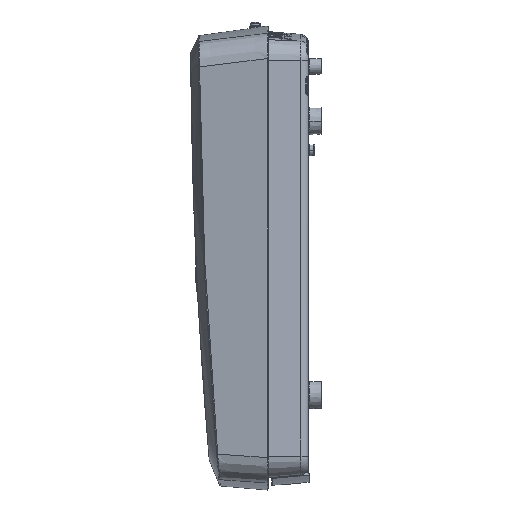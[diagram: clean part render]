
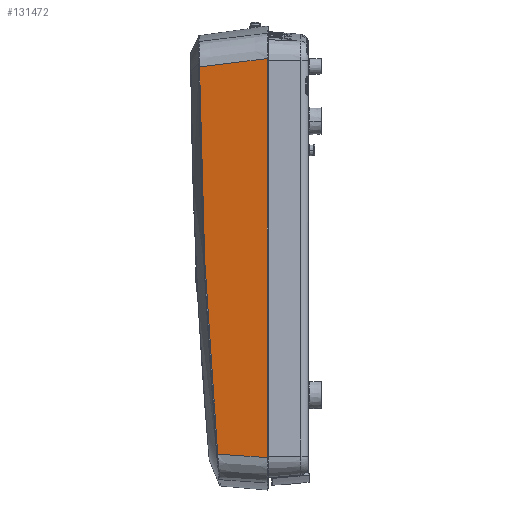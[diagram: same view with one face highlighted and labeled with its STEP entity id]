
A CAD part, left-side view. The second image highlights one B-rep face of the part: STEP entity #131472.
In plain terms, the highlighted planar face has unit normal (-0.99, 0.139, 0).
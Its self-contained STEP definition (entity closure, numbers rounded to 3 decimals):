
#6279 = CARTESIAN_POINT ( 'NONE',  ( -74.027, 42.497, 112.358 ) ) ;
#10719 = ORIENTED_EDGE ( 'NONE', *, *, #19496, .F. ) ;
#17492 = AXIS2_PLACEMENT_3D ( 'NONE', #36315, #51913, #37176 ) ;
#18395 = CARTESIAN_POINT ( 'NONE',  ( -74.094, 42.021, 78.521 ) ) ;
#19254 = CARTESIAN_POINT ( 'NONE',  ( -74.239, 40.993, 38.43 ) ) ;
#19496 = EDGE_CURVE ( 'NONE', #24100, #100817, #30670, .T. ) ;
#20099 = CARTESIAN_POINT ( 'NONE',  ( -74.036, 42.436, 106.091 ) ) ;
#20953 = CARTESIAN_POINT ( 'NONE',  ( -74.343, 40.254, 18.389 ) ) ;
#22464 = PLANE ( 'NONE',  #17492 ) ;
#24100 = VERTEX_POINT ( 'NONE', #148981 ) ;
#24187 = CARTESIAN_POINT ( 'NONE',  ( -75.605, 31.27, -121.674 ) ) ;
#30469 = CARTESIAN_POINT ( 'NONE',  ( -77.953, 14.563, 122.095 ) ) ;
#30670 = B_SPLINE_CURVE_WITH_KNOTS ( 'NONE', 3,
 ( #110235, #100638, #30469, #111960 ),
 .UNSPECIFIED., .F., .F.,
 ( 4, 4 ),
 ( 0., 1. ),
 .UNSPECIFIED. ) ;
#30700 = ORIENTED_EDGE ( 'NONE', *, *, #156541, .F. ) ;
#31376 = CARTESIAN_POINT ( 'NONE',  ( -75.529, 31.81, -115.431 ) ) ;
#32233 = CARTESIAN_POINT ( 'NONE',  ( -75.601, 31.299, -121.362 ) ) ;
#32604 = CARTESIAN_POINT ( 'NONE',  ( -75.605, 31.27, -121.674 ) ) ;
#34781 = CARTESIAN_POINT ( 'NONE',  ( -74.021, 42.546, 118.467 ) ) ;
#36315 = CARTESIAN_POINT ( 'NONE',  ( -80., 0., 144. ) ) ;
#37176 = DIRECTION ( 'NONE',  ( 0.139, 0.99, 0. ) ) ;
#45255 = CARTESIAN_POINT ( 'NONE',  ( -74.023, 42.529, 116.118 ) ) ;
#46669 = VERTEX_POINT ( 'NONE', #32604 ) ;
#47801 = CARTESIAN_POINT ( 'NONE',  ( -74.125, 41.801, 68.497 ) ) ;
#50197 = FACE_OUTER_BOUND ( 'NONE', #115794, .T. ) ;
#51913 = DIRECTION ( 'NONE',  ( 0.99, -0.139, 0. ) ) ;
#52920 = CARTESIAN_POINT ( 'NONE',  ( -79.92, 0.57, 144. ) ) ;
#58259 = CARTESIAN_POINT ( 'NONE',  ( -74.021, 42.541, 117.841 ) ) ;
#59116 = CARTESIAN_POINT ( 'NONE',  ( -75.05, 35.223, -71.702 ) ) ;
#59958 = CARTESIAN_POINT ( 'NONE',  ( -74.021, 42.542, 117.997 ) ) ;
#60812 = CARTESIAN_POINT ( 'NONE',  ( -75.485, 32.127, -111.685 ) ) ;
#61655 = CARTESIAN_POINT ( 'NONE',  ( -75.575, 31.489, -119.177 ) ) ;
#64216 = DIRECTION ( 'NONE',  ( 0., 0., -1. ) ) ;
#71260 = CARTESIAN_POINT ( 'NONE',  ( -74.022, 42.536, 117.058 ) ) ;
#72985 = CARTESIAN_POINT ( 'NONE',  ( -75.369, 32.95, -101.693 ) ) ;
#73828 = CARTESIAN_POINT ( 'NONE',  ( -74.032, 42.462, 108.598 ) ) ;
#74996 = ORIENTED_EDGE ( 'NONE', *, *, #116772, .F. ) ;
#78424 = CARTESIAN_POINT ( 'NONE',  ( -79.92, 0.57, 123.816 ) ) ;
#84268 = CARTESIAN_POINT ( 'NONE',  ( -74.607, 38.374, -21.671 ) ) ;
#85972 = CARTESIAN_POINT ( 'NONE',  ( -75.597, 31.326, -121.05 ) ) ;
#86818 = CARTESIAN_POINT ( 'NONE',  ( -74.022, 42.538, 117.371 ) ) ;
#87664 = CARTESIAN_POINT ( 'NONE',  ( -75.456, 32.335, -109.187 ) ) ;
#93715 = EDGE_CURVE ( 'NONE', #46669, #24100, #132274, .T. ) ;
#93889 = ORIENTED_EDGE ( 'NONE', *, *, #93715, .F. ) ;
#97283 = CARTESIAN_POINT ( 'NONE',  ( -75.586, 31.407, -120.114 ) ) ;
#99838 = CARTESIAN_POINT ( 'NONE',  ( -74.026, 42.508, 113.611 ) ) ;
#100638 = CARTESIAN_POINT ( 'NONE',  ( -75.987, 28.555, 120.364 ) ) ;
#100681 = CARTESIAN_POINT ( 'NONE',  ( -74.024, 42.524, 115.491 ) ) ;
#100817 = VERTEX_POINT ( 'NONE', #78424 ) ;
#101374 = CARTESIAN_POINT ( 'NONE',  ( -77.04, 21.06, -122.395 ) ) ;
#105156 = VERTEX_POINT ( 'NONE', #160519 ) ;
#110235 = CARTESIAN_POINT ( 'NONE',  ( -74.021, 42.546, 118.624 ) ) ;
#111960 = CARTESIAN_POINT ( 'NONE',  ( -79.92, 0.57, 123.816 ) ) ;
#112848 = CARTESIAN_POINT ( 'NONE',  ( -74.021, 42.546, 118.624 ) ) ;
#115794 = EDGE_LOOP ( 'NONE', ( #30700, #74996, #10719, #93889 ) ) ;
#116772 = EDGE_CURVE ( 'NONE', #100817, #105156, #170847, .T. ) ;
#124150 = CARTESIAN_POINT ( 'NONE',  ( -74.767, 37.234, -41.692 ) ) ;
#124990 = CARTESIAN_POINT ( 'NONE',  ( -74.021, 42.545, 118.311 ) ) ;
#127539 = CARTESIAN_POINT ( 'NONE',  ( -75.59, 31.38, -120.426 ) ) ;
#131472 = ADVANCED_FACE ( 'NONE', ( #50197 ), #22464, .F. ) ;
#132274 = B_SPLINE_CURVE_WITH_KNOTS ( 'NONE', 3,
 ( #167451, #139738, #32233, #85972, #137176, #127539, #97283, #61655, #150180, #166594, #31376, #60812, #87664, #72985, #164899, #164039, #59116, #124150, #84268, #20953, #19254, #47801, #18395, #138892, #138047, #20099, #73828, #6279, #99838, #100681, #45255, #71260, #86818, #58259, #59958, #124990, #34781, #112848 ),
 .UNSPECIFIED., .F., .F.,
 ( 4, 2, 2, 2, 2, 2, 2, 2, 2, 2, 2, 2, 2, 2, 2, 2, 2, 2, 4 ),
 ( 0., 0.002, 0.004, 0.008, 0.016, 0.031, 0.063, 0.125, 0.25, 0.5, 0.75, 0.875, 0.938, 0.969, 0.984, 0.992, 0.996, 0.998, 1. ),
 .UNSPECIFIED. ) ;
#137176 = CARTESIAN_POINT ( 'NONE',  ( -75.595, 31.34, -120.894 ) ) ;
#138047 = CARTESIAN_POINT ( 'NONE',  ( -74.049, 42.346, 98.572 ) ) ;
#138892 = CARTESIAN_POINT ( 'NONE',  ( -74.059, 42.274, 93.559 ) ) ;
#139738 = CARTESIAN_POINT ( 'NONE',  ( -75.603, 31.285, -121.518 ) ) ;
#147803 = VECTOR ( 'NONE', #64216, 1000. ) ;
#148981 = CARTESIAN_POINT ( 'NONE',  ( -74.021, 42.546, 118.624 ) ) ;
#149847 = B_SPLINE_CURVE_WITH_KNOTS ( 'NONE', 3,
 ( #169018, #165601, #101374, #24187 ),
 .UNSPECIFIED., .F., .F.,
 ( 4, 4 ),
 ( 0., 1. ),
 .UNSPECIFIED. ) ;
#150180 = CARTESIAN_POINT ( 'NONE',  ( -75.567, 31.542, -118.553 ) ) ;
#156541 = EDGE_CURVE ( 'NONE', #105156, #46669, #149847, .T. ) ;
#160519 = CARTESIAN_POINT ( 'NONE',  ( -79.92, 0.57, -123.824 ) ) ;
#164039 = CARTESIAN_POINT ( 'NONE',  ( -75.151, 34.503, -81.702 ) ) ;
#164899 = CARTESIAN_POINT ( 'NONE',  ( -75.313, 33.348, -96.696 ) ) ;
#165601 = CARTESIAN_POINT ( 'NONE',  ( -78.478, 10.826, -123.112 ) ) ;
#166594 = CARTESIAN_POINT ( 'NONE',  ( -75.544, 31.703, -116.68 ) ) ;
#167451 = CARTESIAN_POINT ( 'NONE',  ( -75.605, 31.27, -121.674 ) ) ;
#169018 = CARTESIAN_POINT ( 'NONE',  ( -79.92, 0.57, -123.824 ) ) ;
#170847 = LINE ( 'NONE', #52920, #147803 ) ;
